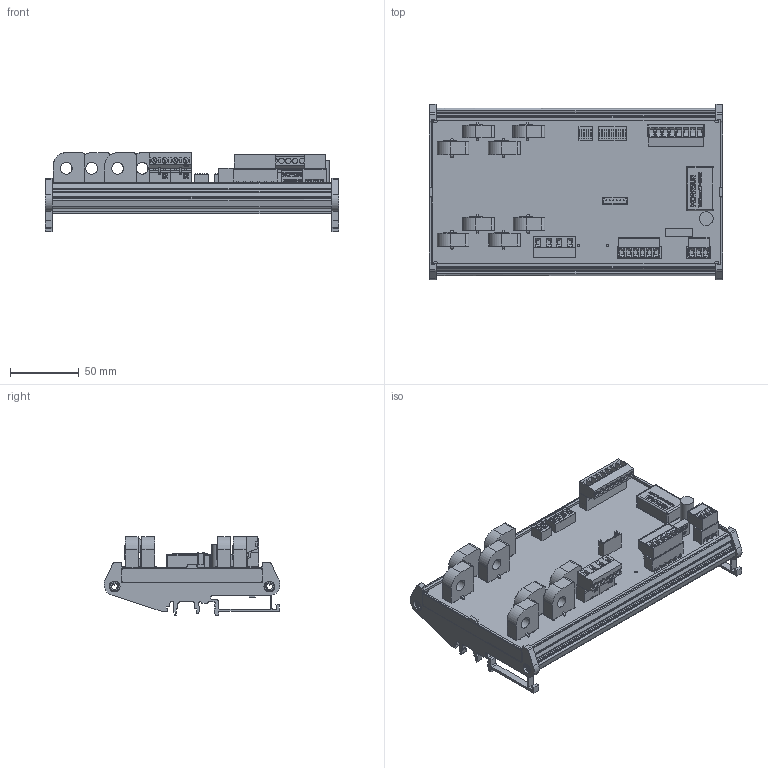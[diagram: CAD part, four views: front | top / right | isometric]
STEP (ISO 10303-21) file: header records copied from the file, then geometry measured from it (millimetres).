
FILE_DESCRIPTION(('FreeCAD Model'),'2;1');
FILE_NAME('C:/3D Files/Stringhe/ST0HS/ST0HS08xx/ST0HS08xx.step', '2023-01-13T09:08:41',('Author'),(''), 'Open CASCADE STEP processor 7.3','FreeCAD','Unknown');
FILE_SCHEMA(('AUTOMOTIVE_DESIGN { 1 0 10303 214 1 1 1 1 }'));
Length unit declared in the file: millimetre
Products named in the file (26): ST0HS08xx; AmpModu_6P_M; DipSwitch8; DipSwitch4; Stampato; Profilo_212.9x128; IB2405LS-1W; WRB2403ZP-6WR003; ELNA_470_uF_35_V; Mstb_06Pc_M; Mstb_06P_F; Mstb_03P_F; Mstb_03Pc_M; SH04-7,62; PV02-7,62-V-Pa; PV02-7,62-V-Pb; Mstb_8P_F; Mstb_8Pc_M; CHK-LSP5S2L-BP-CH_1; CHK-LSP5S2L-BP-CH_2; CHK-LSP5S2L-BP-CH_3; CHK-LSP5S2L-BP-CH_4; CHK-LSP5S2L-BP-CH_5; CHK-LSP5S2L-BP-CH_6; CHK-LSP5S2L-BP-CH_7; CHK-LSP5S2L-BP-CH_8
Assembly tree (25 placements, depth 2):
  ST0HS08xx
    AmpModu_6P_M
    DipSwitch8
    DipSwitch4
    Stampato
    Profilo_212.9x128
    IB2405LS-1W
    WRB2403ZP-6WR003
    ELNA_470_uF_35_V
    Mstb_06Pc_M
    Mstb_06P_F
    Mstb_03P_F
    Mstb_03Pc_M
    SH04-7,62
    PV02-7,62-V-Pa
    PV02-7,62-V-Pb
    Mstb_8P_F
    Mstb_8Pc_M
    CHK-LSP5S2L-BP-CH_1
    CHK-LSP5S2L-BP-CH_2
    CHK-LSP5S2L-BP-CH_3
    CHK-LSP5S2L-BP-CH_4
    CHK-LSP5S2L-BP-CH_5
    CHK-LSP5S2L-BP-CH_6
    CHK-LSP5S2L-BP-CH_7
    CHK-LSP5S2L-BP-CH_8
Bounding box: 212.9 x 127.59 x 57.69 mm (x, y, z)
Volume: 188676.6 mm3; surface area: 205554.2 mm2
Topology: 37 solids, 76 shells, 4267 faces, 12833 edges, 11609 vertices
Faces by surface type: plane 2869, bspline 747, cylinder 493, torus 80, cone 59, sphere 16, extrusion 3
Full cylindrical faces by diameter (mm): 0.5 x4, 0.75 x36, 1 x10, 1.5 x8, 1.6 x13, 3.8 x4, 4 x21, 10 x1
Entity records: 326197 total; most frequent: CARTESIAN_POINT 85759, DIRECTION 35361, VECTOR 24970, LINE 24967, ORIENTED_EDGE 23059, PCURVE 23059, DEFINITIONAL_REPRESENTATION 23059, EDGE_CURVE 11892
